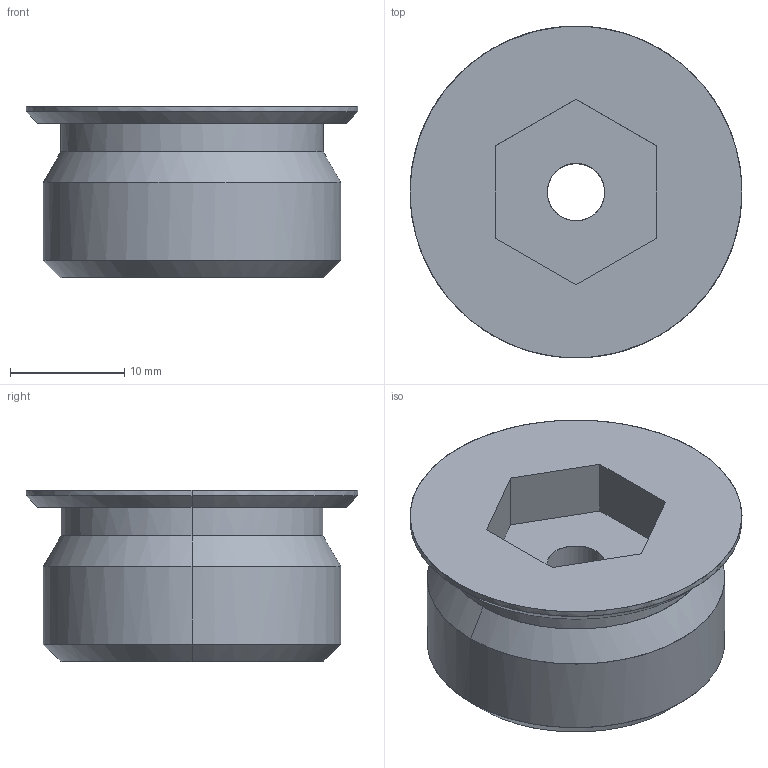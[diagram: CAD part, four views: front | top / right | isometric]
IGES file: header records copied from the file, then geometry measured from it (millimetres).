
Global section: file name: E:\UnigraphicsGraphicData\MISUMI_PRESS-PARTS\IGES\3d_mswzh26_00485_r00.igs; native system: NX V5.0; preprocessor: UGS NX IGES V5.0; author: MISUMI; date: 20110105.161529; units: millimetre
Bounding box: 29 x 29 x 15 mm (x, y, z)
Surface area: 2902.3 mm2 (no closed solid volume)
Topology: 0 solids, 0 shells, 24 faces, 156 edges, 156 vertices
Faces by surface type: bspline 24
